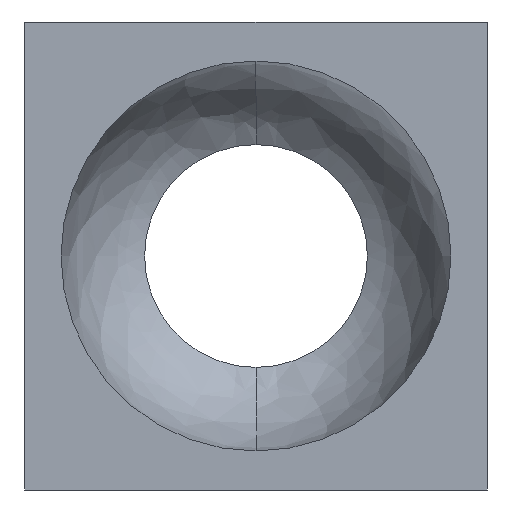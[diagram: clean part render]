
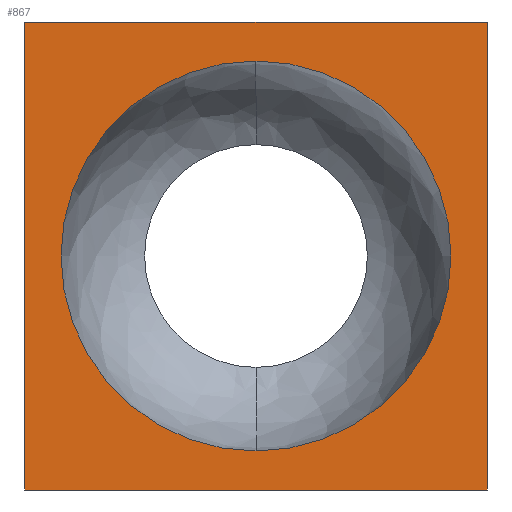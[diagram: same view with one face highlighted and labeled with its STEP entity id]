
A CAD part, front view. The second image highlights one B-rep face of the part: STEP entity #867.
In plain terms, the highlighted planar face has unit normal (0, -1, 0).
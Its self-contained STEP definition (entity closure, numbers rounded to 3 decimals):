
#43 = ORIENTED_EDGE ( 'NONE', *, *, #1088, .F. ) ;
#46 = EDGE_CURVE ( 'NONE', #1409, #925, #204, .T. ) ;
#94 = EDGE_CURVE ( 'NONE', #570, #1181, #801, .T. ) ;
#133 = CARTESIAN_POINT ( 'NONE',  ( -20.75, -9.5, -21. ) ) ;
#140 = ORIENTED_EDGE ( 'NONE', *, *, #1470, .T. ) ;
#204 = LINE ( 'NONE', #1643, #1079 ) ;
#219 = CIRCLE ( 'NONE', #776, 17.5 ) ;
#228 = ORIENTED_EDGE ( 'NONE', *, *, #94, .F. ) ;
#284 = FACE_BOUND ( 'NONE', #707, .T. ) ;
#334 = DIRECTION ( 'NONE',  ( 0., 0., 1. ) ) ;
#370 = EDGE_CURVE ( 'NONE', #786, #1551, #219, .T. ) ;
#491 = FACE_OUTER_BOUND ( 'NONE', #1101, .T. ) ;
#493 = AXIS2_PLACEMENT_3D ( 'NONE', #760, #1292, #657 ) ;
#539 = CARTESIAN_POINT ( 'NONE',  ( 20.75, -9.5, 21. ) ) ;
#555 = DIRECTION ( 'NONE',  ( 0., 0., -1. ) ) ;
#562 = CARTESIAN_POINT ( 'NONE',  ( 0., -9.5, -17.5 ) ) ;
#570 = VERTEX_POINT ( 'NONE', #604 ) ;
#583 = VECTOR ( 'NONE', #759, 1000. ) ;
#604 = CARTESIAN_POINT ( 'NONE',  ( 20.75, -9.5, -21. ) ) ;
#638 = DIRECTION ( 'NONE',  ( 0., -1., 0. ) ) ;
#657 = DIRECTION ( 'NONE',  ( 0., 0., 1. ) ) ;
#707 = EDGE_LOOP ( 'NONE', ( #140, #1143 ) ) ;
#759 = DIRECTION ( 'NONE',  ( -1., 0., 0. ) ) ;
#760 = CARTESIAN_POINT ( 'NONE',  ( 0., -9.5, 0. ) ) ;
#776 = AXIS2_PLACEMENT_3D ( 'NONE', #972, #1206, #334 ) ;
#786 = VERTEX_POINT ( 'NONE', #1399 ) ;
#801 = LINE ( 'NONE', #133, #583 ) ;
#867 = ADVANCED_FACE ( 'NONE', ( #284, #491 ), #1675, .T. ) ;
#922 = CIRCLE ( 'NONE', #493, 17.5 ) ;
#925 = VERTEX_POINT ( 'NONE', #1514 ) ;
#931 = DIRECTION ( 'NONE',  ( 0., 0., 1. ) ) ;
#932 = VECTOR ( 'NONE', #555, 1000. ) ;
#972 = CARTESIAN_POINT ( 'NONE',  ( 0., -9.5, 0. ) ) ;
#1036 = LINE ( 'NONE', #539, #932 ) ;
#1037 = CARTESIAN_POINT ( 'NONE',  ( -20.75, -9.5, 21. ) ) ;
#1079 = VECTOR ( 'NONE', #1671, 1000. ) ;
#1088 = EDGE_CURVE ( 'NONE', #1181, #1409, #1316, .T. ) ;
#1101 = EDGE_LOOP ( 'NONE', ( #1179, #1610, #43, #228 ) ) ;
#1143 = ORIENTED_EDGE ( 'NONE', *, *, #370, .T. ) ;
#1179 = ORIENTED_EDGE ( 'NONE', *, *, #1312, .F. ) ;
#1181 = VERTEX_POINT ( 'NONE', #1256 ) ;
#1206 = DIRECTION ( 'NONE',  ( 0., 1., 0. ) ) ;
#1256 = CARTESIAN_POINT ( 'NONE',  ( -20.75, -9.5, -21. ) ) ;
#1280 = CARTESIAN_POINT ( 'NONE',  ( 0., -9.5, 0. ) ) ;
#1292 = DIRECTION ( 'NONE',  ( 0., 1., 0. ) ) ;
#1312 = EDGE_CURVE ( 'NONE', #925, #570, #1036, .T. ) ;
#1316 = LINE ( 'NONE', #1322, #1472 ) ;
#1322 = CARTESIAN_POINT ( 'NONE',  ( -20.75, -9.5, 21. ) ) ;
#1394 = DIRECTION ( 'NONE',  ( 0., 0., -1. ) ) ;
#1399 = CARTESIAN_POINT ( 'NONE',  ( 0., -9.5, 17.5 ) ) ;
#1409 = VERTEX_POINT ( 'NONE', #1037 ) ;
#1470 = EDGE_CURVE ( 'NONE', #1551, #786, #922, .T. ) ;
#1472 = VECTOR ( 'NONE', #931, 1000. ) ;
#1514 = CARTESIAN_POINT ( 'NONE',  ( 20.75, -9.5, 21. ) ) ;
#1551 = VERTEX_POINT ( 'NONE', #562 ) ;
#1597 = AXIS2_PLACEMENT_3D ( 'NONE', #1280, #638, #1394 ) ;
#1610 = ORIENTED_EDGE ( 'NONE', *, *, #46, .F. ) ;
#1643 = CARTESIAN_POINT ( 'NONE',  ( -20.75, -9.5, 21. ) ) ;
#1671 = DIRECTION ( 'NONE',  ( 1., 0., 0. ) ) ;
#1675 = PLANE ( 'NONE',  #1597 ) ;
